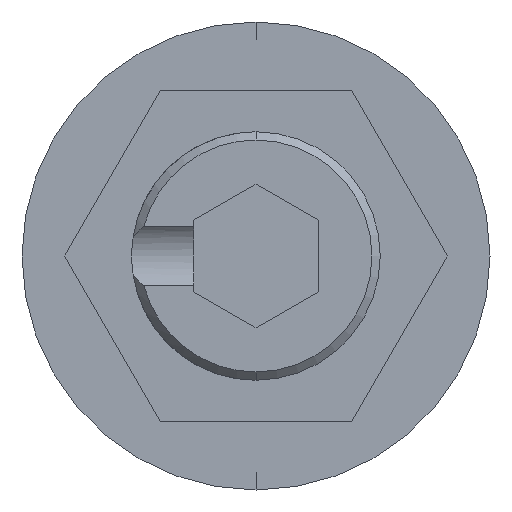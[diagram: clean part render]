
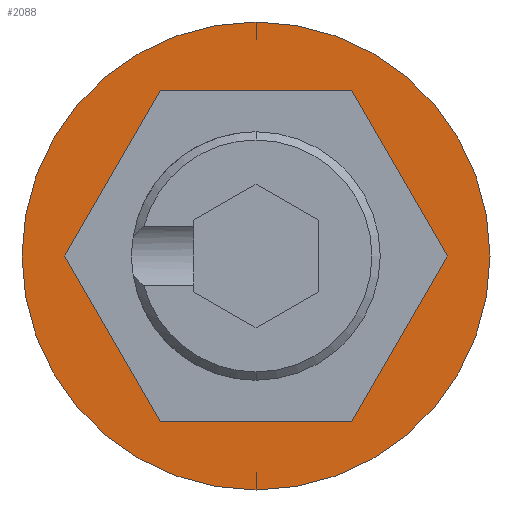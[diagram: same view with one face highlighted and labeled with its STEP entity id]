
A CAD part, front view. The second image highlights one B-rep face of the part: STEP entity #2088.
In plain terms, the highlighted planar face has unit normal (0, -1, 0).
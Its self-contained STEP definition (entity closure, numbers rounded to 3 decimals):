
#20 = EDGE_LOOP ( 'NONE', ( #2025, #715, #1028, #154, #195, #254 ) ) ;
#87 = LINE ( 'NONE', #1722, #311 ) ;
#154 = ORIENTED_EDGE ( 'NONE', *, *, #930, .F. ) ;
#173 = LINE ( 'NONE', #1612, #550 ) ;
#176 = VERTEX_POINT ( 'NONE', #482 ) ;
#195 = ORIENTED_EDGE ( 'NONE', *, *, #1949, .F. ) ;
#254 = ORIENTED_EDGE ( 'NONE', *, *, #2004, .F. ) ;
#262 = CARTESIAN_POINT ( 'NONE',  ( 2.309, 0., -4. ) ) ;
#265 = LINE ( 'NONE', #524, #2010 ) ;
#296 = VERTEX_POINT ( 'NONE', #617 ) ;
#304 = AXIS2_PLACEMENT_3D ( 'NONE', #1606, #864, #1855 ) ;
#309 = EDGE_CURVE ( 'NONE', #2099, #780, #1641, .T. ) ;
#311 = VECTOR ( 'NONE', #2047, 1000. ) ;
#356 = CARTESIAN_POINT ( 'NONE',  ( -2.309, 0., 4. ) ) ;
#360 = LINE ( 'NONE', #1893, #1563 ) ;
#482 = CARTESIAN_POINT ( 'NONE',  ( -2.309, 0., -4. ) ) ;
#514 = DIRECTION ( 'NONE',  ( -0.5, 0., -0.866 ) ) ;
#524 = CARTESIAN_POINT ( 'NONE',  ( -2.309, 0., 4. ) ) ;
#528 = CARTESIAN_POINT ( 'NONE',  ( 2.309, 0., 4. ) ) ;
#550 = VECTOR ( 'NONE', #1948, 1000. ) ;
#617 = CARTESIAN_POINT ( 'NONE',  ( -4.619, 0., 0. ) ) ;
#715 = ORIENTED_EDGE ( 'NONE', *, *, #1971, .F. ) ;
#764 = EDGE_CURVE ( 'NONE', #176, #1362, #173, .T. ) ;
#780 = VERTEX_POINT ( 'NONE', #1892 ) ;
#799 = CARTESIAN_POINT ( 'NONE',  ( 2.309, 0., 4. ) ) ;
#864 = DIRECTION ( 'NONE',  ( 0., -1., 0. ) ) ;
#874 = FACE_OUTER_BOUND ( 'NONE', #2089, .T. ) ;
#894 = DIRECTION ( 'NONE',  ( -1., 0., 0. ) ) ;
#930 = EDGE_CURVE ( 'NONE', #1267, #1656, #1542, .T. ) ;
#1012 = EDGE_CURVE ( 'NONE', #780, #2099, #1884, .T. ) ;
#1028 = ORIENTED_EDGE ( 'NONE', *, *, #1185, .F. ) ;
#1051 = CARTESIAN_POINT ( 'NONE',  ( 4.619, 0., 0. ) ) ;
#1153 = PLANE ( 'NONE',  #1383 ) ;
#1185 = EDGE_CURVE ( 'NONE', #1656, #296, #265, .T. ) ;
#1238 = DIRECTION ( 'NONE',  ( 0., 0., -1. ) ) ;
#1267 = VERTEX_POINT ( 'NONE', #528 ) ;
#1362 = VERTEX_POINT ( 'NONE', #1691 ) ;
#1383 = AXIS2_PLACEMENT_3D ( 'NONE', #1483, #1970, #1651 ) ;
#1394 = ORIENTED_EDGE ( 'NONE', *, *, #1012, .T. ) ;
#1397 = DIRECTION ( 'NONE',  ( 0.5, 0., -0.866 ) ) ;
#1414 = DIRECTION ( 'NONE',  ( 0.5, 0., 0.866 ) ) ;
#1483 = CARTESIAN_POINT ( 'NONE',  ( 0., 0., 0. ) ) ;
#1518 = VECTOR ( 'NONE', #1414, 1000. ) ;
#1542 = LINE ( 'NONE', #799, #2090 ) ;
#1563 = VECTOR ( 'NONE', #1397, 1000. ) ;
#1597 = AXIS2_PLACEMENT_3D ( 'NONE', #1733, #1743, #1238 ) ;
#1606 = CARTESIAN_POINT ( 'NONE',  ( 0., 0., 0. ) ) ;
#1612 = CARTESIAN_POINT ( 'NONE',  ( -2.309, 0., -4. ) ) ;
#1623 = ORIENTED_EDGE ( 'NONE', *, *, #309, .T. ) ;
#1641 = CIRCLE ( 'NONE', #304, 5.65 ) ;
#1651 = DIRECTION ( 'NONE',  ( 0., 0., -1. ) ) ;
#1656 = VERTEX_POINT ( 'NONE', #356 ) ;
#1691 = CARTESIAN_POINT ( 'NONE',  ( 2.309, 0., -4. ) ) ;
#1722 = CARTESIAN_POINT ( 'NONE',  ( 4.619, 0., 0. ) ) ;
#1733 = CARTESIAN_POINT ( 'NONE',  ( 0., 0., 0. ) ) ;
#1743 = DIRECTION ( 'NONE',  ( 0., -1., 0. ) ) ;
#1806 = FACE_BOUND ( 'NONE', #20, .T. ) ;
#1855 = DIRECTION ( 'NONE',  ( 0., 0., -1. ) ) ;
#1884 = CIRCLE ( 'NONE', #1597, 5.65 ) ;
#1892 = CARTESIAN_POINT ( 'NONE',  ( 0., 0., 5.65 ) ) ;
#1893 = CARTESIAN_POINT ( 'NONE',  ( -4.619, 0., 0. ) ) ;
#1943 = VERTEX_POINT ( 'NONE', #1051 ) ;
#1948 = DIRECTION ( 'NONE',  ( 1., 0., 0. ) ) ;
#1949 = EDGE_CURVE ( 'NONE', #1943, #1267, #87, .T. ) ;
#1970 = DIRECTION ( 'NONE',  ( 0., -1., 0. ) ) ;
#1971 = EDGE_CURVE ( 'NONE', #296, #176, #360, .T. ) ;
#2004 = EDGE_CURVE ( 'NONE', #1362, #1943, #2009, .T. ) ;
#2009 = LINE ( 'NONE', #262, #1518 ) ;
#2010 = VECTOR ( 'NONE', #514, 1000. ) ;
#2025 = ORIENTED_EDGE ( 'NONE', *, *, #764, .F. ) ;
#2047 = DIRECTION ( 'NONE',  ( -0.5, 0., 0.866 ) ) ;
#2072 = CARTESIAN_POINT ( 'NONE',  ( 0., 0., -5.65 ) ) ;
#2088 = ADVANCED_FACE ( 'NONE', ( #1806, #874 ), #1153, .T. ) ;
#2089 = EDGE_LOOP ( 'NONE', ( #1623, #1394 ) ) ;
#2090 = VECTOR ( 'NONE', #894, 1000. ) ;
#2099 = VERTEX_POINT ( 'NONE', #2072 ) ;
